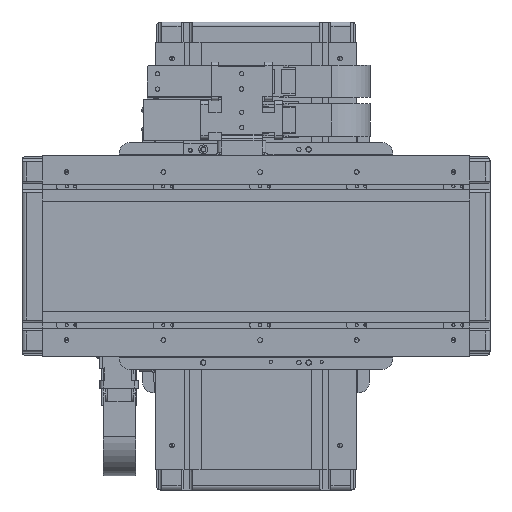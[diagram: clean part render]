
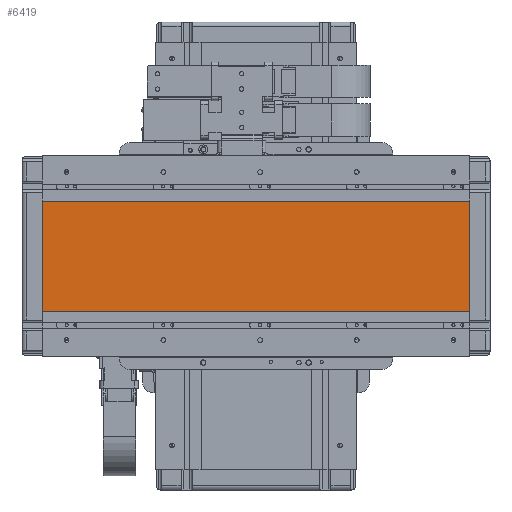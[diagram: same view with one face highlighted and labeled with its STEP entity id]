
A CAD part, front view. The second image highlights one B-rep face of the part: STEP entity #6419.
In plain terms, the highlighted planar face has unit normal (0, -1, 0).
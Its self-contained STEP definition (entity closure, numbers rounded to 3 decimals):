
#871=DIRECTION('',(0.,0.,1.));
#872=VECTOR('',#871,136.7);
#873=CARTESIAN_POINT('',(265.,1.03,-68.598));
#874=LINE('',#873,#872);
#1649=DIRECTION('',(-1.,0.,0.));
#1650=VECTOR('',#1649,530.);
#1651=CARTESIAN_POINT('',(265.,1.03,68.103));
#1652=LINE('',#1651,#1650);
#1656=DIRECTION('',(-1.,0.,0.));
#1657=VECTOR('',#1656,530.);
#1658=CARTESIAN_POINT('',(265.,1.03,-68.598));
#1659=LINE('',#1658,#1657);
#3077=DIRECTION('',(0.,0.,1.));
#3078=VECTOR('',#3077,136.7);
#3079=CARTESIAN_POINT('',(-265.,1.03,-68.598));
#3080=LINE('',#3079,#3078);
#4761=CARTESIAN_POINT('',(265.,1.03,-68.598));
#4762=VERTEX_POINT('',#4761);
#4763=CARTESIAN_POINT('',(265.,1.03,68.103));
#4764=VERTEX_POINT('',#4763);
#5091=CARTESIAN_POINT('',(-265.,1.03,-68.598));
#5092=VERTEX_POINT('',#5091);
#5093=CARTESIAN_POINT('',(-265.,1.03,68.103));
#5094=VERTEX_POINT('',#5093);
#6406=CARTESIAN_POINT('',(265.,1.03,-68.598));
#6407=DIRECTION('',(0.,-1.,0.));
#6408=DIRECTION('',(0.,0.,1.));
#6409=AXIS2_PLACEMENT_3D('',#6406,#6407,#6408);
#6410=PLANE('',#6409);
#6411=ORIENTED_EDGE('',*,*,#5588,.F.);
#6413=ORIENTED_EDGE('',*,*,#6412,.T.);
#6415=ORIENTED_EDGE('',*,*,#6414,.T.);
#6416=ORIENTED_EDGE('',*,*,#6398,.F.);
#6417=EDGE_LOOP('',(#6411,#6413,#6415,#6416));
#6418=FACE_OUTER_BOUND('',#6417,.F.);
#6419=ADVANCED_FACE('',(#6418),#6410,.T.);
#5588=EDGE_CURVE('',#4762,#4764,#874,.T.);
#6398=EDGE_CURVE('',#4764,#5094,#1652,.T.);
#6412=EDGE_CURVE('',#4762,#5092,#1659,.T.);
#6414=EDGE_CURVE('',#5092,#5094,#3080,.T.);
